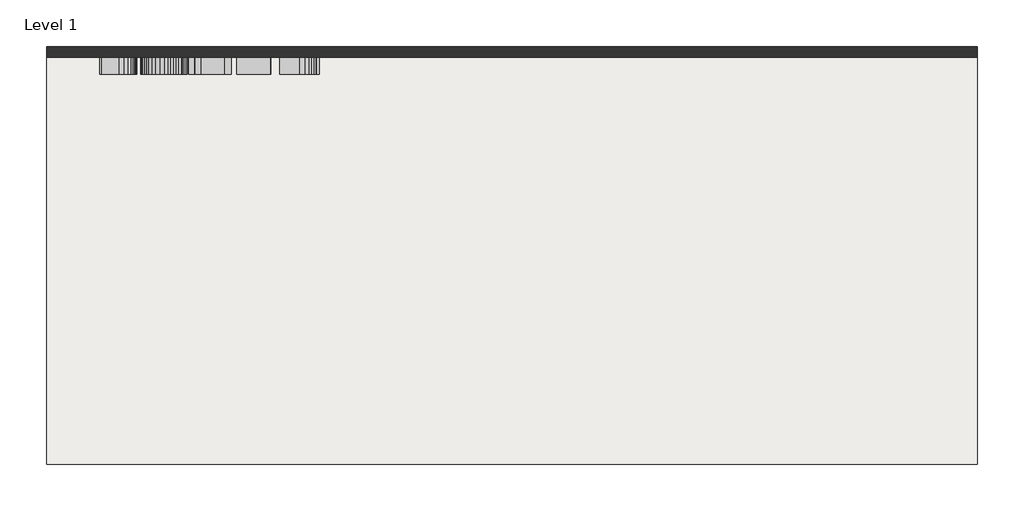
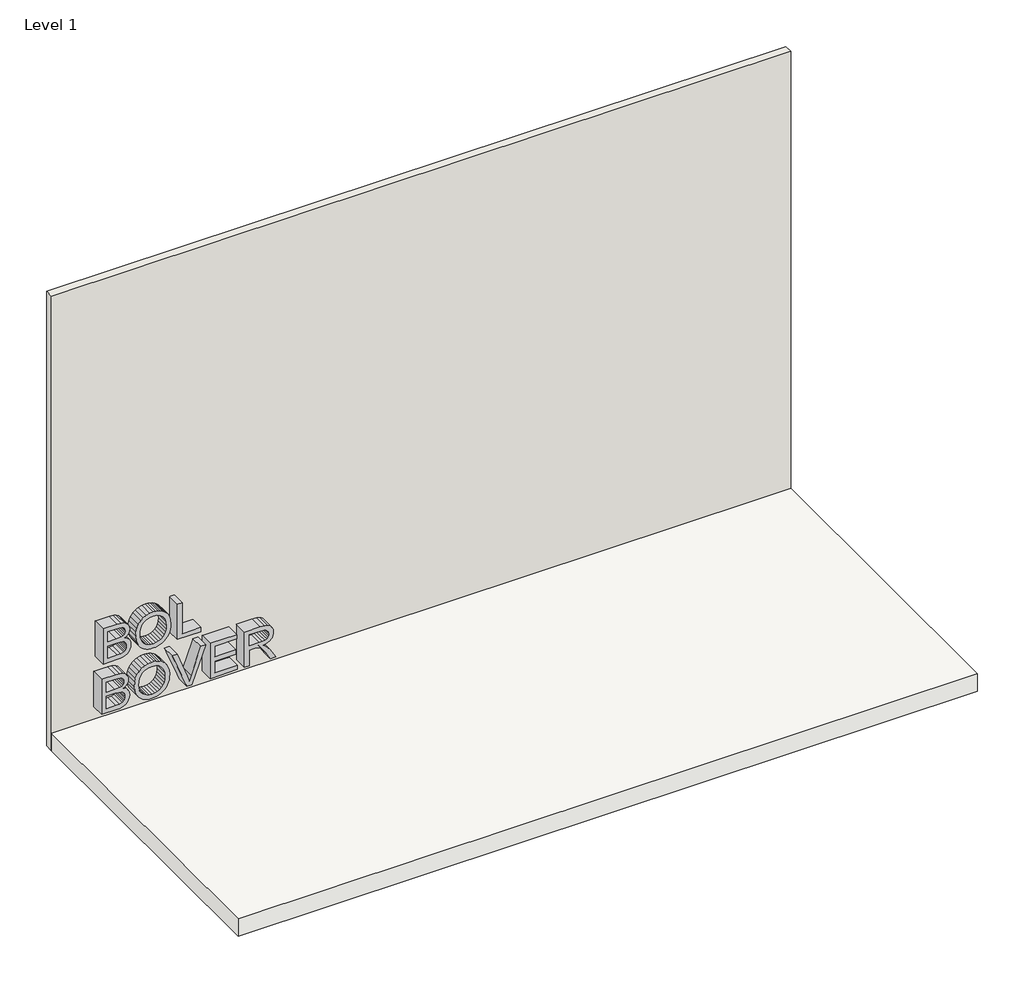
# One storey, incomplete: 2 proxies, 1 slab, 1 wall.
"""IFC4 building model written with IfcOpenShell, lengths in millimetres."""

from ifc_helpers import new_model, si_unit, frame, origin, place, context, project, spatial, polyline, outline, extrude, element, save

model = new_model("IFC4")

# Units and contexts
model_context = context("Model", 3, world=origin())
ifc_project = project(units=[si_unit("LENGTHUNIT", "METRE", prefix="MILLI")], contexts=[model_context])

# Site, building, storey
site = spatial("IfcSite", under=ifc_project)
building = spatial("IfcBuilding", under=site)
storey = spatial("IfcBuildingStorey", under=building, Name="Level 1", Elevation=0.0)

# Proxies
placement = place(None, origin())
element("IfcBuildingElementProxy", 1, Name="400mm Arial", ObjectType="400mm Arial", at=placement, inside=storey, context=model_context, shape_type="SweptSolid", body=[
    extrude(outline(polyline([(145.3499691, -8246.6925475), (145.3499691, -8094.5365543), (147.0790145, -8059.3547728), (152.2661506, -8030.1326797), (160.8255383, -8006.0854599), (172.6713386, -7986.4282986), (189.0298246, -7970.3763809), (211.1272698, -7957.1448918), (237.1120014, -7948.2789357), (265.1323467, -7945.323617), (298.7567611, -7949.6523619), (327.623235, -7962.6385963), (350.2357149, -7983.6691837), (365.0981475, -8012.1309874), (380.7576578, -7988.3044968), (400.6600737, -7971.3696623), (423.4074438, -7961.2529074), (447.6018163, -7957.8806558), (473.8931162, -7961.8905696), (499.0071938, -7973.9203108), (520.3566122, -7993.0256491), (535.3539349, -8018.262354), (544.219891, -8051.1877925), (547.1752097, -8093.3593319), (547.1752097, -8246.6925475), (145.3499691, -8246.6925475)]), holes=[polyline([(383.9337057, -8196.4643924), (496.9470546, -8196.4643924), (496.9470546, -8111.7043807), (495.6349422, -8072.7088892), (491.6986048, -8047.1533533), (484.2306003, -8030.5005617), (472.3234864, -8018.213303), (457.0686463, -8010.6349339), (439.5574634, -8008.1088109), (421.5189829, -8010.8188749), (406.8404913, -8018.949067), (395.6936668, -8032.4258108), (388.2501878, -8051.1755298), (383.9337057, -8104.7391483), (383.9337057, -8196.4643924)]), polyline([(195.5781242, -8196.4643924), (333.7055506, -8196.4643924), (333.7055506, -8098.362527), (332.0255562, -8062.5921344), (326.9855728, -8036.3130972), (317.8007857, -8017.7595819), (303.6863798, -8005.1657549), (285.6356366, -7997.9552678), (264.6418374, -7995.5517721), (246.5665687, -7997.5996486), (230.7966938, -8003.7432779), (217.9085613, -8013.0629551), (208.4785195, -8024.6389752), (197.5401615, -8056.1787249), (195.5781242, -8093.4574338), (195.5781242, -8196.4643924)])]), frame((0.0, 4375.2076786, 0.0), z_axis=(0.0, 1.0, 0.0), x_axis=(0.0, 0.0, 1.0)), (0.0, 0.0, 1.0), 150.0),
    extrude(outline(polyline([(340.9650886, -7895.095462), (289.5719739, -7889.3565028), (240.9502369, -7872.1396255), (218.5768802, -7859.3128066), (198.6928584, -7843.7881864), (181.2981714, -7825.5657649), (166.3928192, -7804.6455421), (154.43972, -7781.6283919), (145.9017921, -7757.1151883), (140.7790353, -7731.1059313), (139.0714497, -7703.6006208), (140.6165541, -7677.9500486), (145.2518672, -7653.1885247), (152.9773891, -7629.3160489), (163.7931198, -7606.3326212), (177.6132201, -7585.0751733), (194.3518508, -7566.3806366), (214.0090121, -7550.2490111), (236.5847039, -7536.6802968), (261.4228699, -7525.9289455), (287.867454, -7518.2494088), (315.9184561, -7513.6416869), (345.5758763, -7512.1057795), (402.5240092, -7517.9428405), (428.6068426, -7525.2391668), (453.0955208, -7535.4540235), (475.4811402, -7548.4525207), (495.2547974, -7564.0997682), (512.4164925, -7582.3957661), (526.9662254, -7603.3405143), (538.5545083, -7626.2902195), (546.8318531, -7650.601088), (551.7982601, -7676.2731199), (553.4537291, -7703.3063152), (549.9281933, -7743.6936269), (539.3515859, -7780.1936521), (521.723907, -7812.806391), (497.0451565, -7841.5318435), (466.1369375, -7864.9659266), (429.8208532, -7881.7045574), (388.0969036, -7891.7477358), (340.9650886, -7895.095462)]), holes=[polyline([(340.4745793, -7844.8673069), (381.1899191, -7842.2492134), (415.6328709, -7834.3949328), (443.8034347, -7821.3044651), (465.7016105, -7802.9778104), (482.1183445, -7781.0213866), (493.8445831, -7757.0416119), (500.8803263, -7731.0384862), (503.225574, -7703.0120096), (498.3572689, -7664.1268827), (483.7523537, -7629.2884577), (460.2937452, -7600.4097211), (428.86436, -7579.4036592), (390.4329543, -7566.6013657), (345.9682838, -7562.3339346), (310.5841672, -7564.8263351), (279.4797445, -7572.3035367), (252.6550157, -7584.7655393), (230.1099808, -7602.2123429), (212.2554413, -7623.5219075), (199.5021988, -7647.5721929), (191.8502533, -7674.3631992), (189.2996048, -7703.8949263), (191.8257278, -7732.9300128), (199.4040969, -7759.4083194), (212.0347121, -7783.3298462), (229.7175733, -7804.694593), (251.7966244, -7822.2701553), (277.6158091, -7834.8241284), (307.1751274, -7842.3565123), (340.4745793, -7844.8673069)])]), frame((0.0, 4375.2076786, 0.0), z_axis=(0.0, 1.0, 0.0), x_axis=(0.0, 0.0, 1.0)), (0.0, 0.0, 1.0), 150.0),
    extrude(outline(polyline([(145.3499691, -7324.3388092), (145.3499691, -7272.4429224), (547.1752097, -7119.3059105), (547.1752097, -7173.0657328), (257.6766049, -7280.3891735), (192.4388645, -7301.7753802), (257.6766049, -7323.4558924), (547.1752097, -7430.4850275), (547.1752097, -7484.2448498), (145.3499691, -7324.3388092)])), frame((0.0, 4375.2076786, 0.0), z_axis=(0.0, 1.0, 0.0), x_axis=(0.0, 0.0, 1.0)), (0.0, 0.0, 1.0), 150.0),
    extrude(outline(polyline([(145.3499691, -7072.6094226), (145.3499691, -6777.5190116), (195.5781242, -6777.5190116), (195.5781242, -7022.3812675), (327.4270312, -7022.3812675), (327.4270312, -6796.3545697), (377.6551863, -6796.3545697), (377.6551863, -7022.3812675), (496.9470546, -7022.3812675), (496.9470546, -6783.7975309), (547.1752097, -6783.7975309), (547.1752097, -7072.6094226), (145.3499691, -7072.6094226)])), frame((0.0, 4375.2076786, 0.0), z_axis=(0.0, 1.0, 0.0), x_axis=(0.0, 0.0, 1.0)), (0.0, 0.0, 1.0), 150.0),
    extrude(outline(polyline([(145.3499691, -6702.1767789), (145.3499691, -6651.9486239), (321.1485118, -6651.9486239), (321.1485118, -6591.3216711), (319.3826783, -6562.185417), (309.8177464, -6538.2976128), (299.8481443, -6525.8018877), (283.7717011, -6511.7610582), (228.6384528, -6473.9918401), (145.3499691, -6421.7035458), (145.3499691, -6363.3329359), (254.2430397, -6430.33651), (305.9427227, -6471.0487841), (327.4270312, -6499.5964269), (332.7429261, -6473.0016244), (340.7443595, -6450.1162986), (351.4313314, -6430.9404496), (364.8038419, -6415.4740774), (380.3652503, -6403.5638978), (397.6189159, -6395.0566266), (416.5648387, -6389.952264), (437.2030186, -6388.2508097), (469.0248112, -6392.3588253), (497.9771242, -6404.6828722), (521.3253682, -6423.8863123), (536.3349536, -6448.6325079), (544.4651456, -6482.4899142), (547.1752097, -6529.0269866), (547.1752097, -6702.1767789), (145.3499691, -6702.1767789)]), holes=[polyline([(371.3766669, -6651.9486239), (496.9470546, -6651.9486239), (496.9470546, -6526.8687455), (492.6060471, -6487.1252273), (487.1797876, -6471.8795843), (479.5830244, -6459.7180187), (459.840024, -6443.7887283), (435.3390831, -6438.4789648), (417.5949082, -6441.2626052), (401.2486849, -6449.6135265), (387.735153, -6463.3232622), (378.4890522, -6482.1833458), (373.1547632, -6507.2361097), (371.3766669, -6539.5238861), (371.3766669, -6651.9486239)])]), frame((0.0, 4375.2076786, 0.0), z_axis=(0.0, 1.0, 0.0), x_axis=(0.0, 0.0, 1.0)), (0.0, 0.0, 1.0), 150.0),
])
element("IfcBuildingElementProxy", 2, Name="400mm Arial", ObjectType="400mm Arial", at=placement, inside=storey, context=model_context, shape_type="SweptSolid", body=[
    extrude(outline(polyline([(716.706166, -8231.6588148), (716.706166, -8079.5028216), (718.4352113, -8044.3210401), (723.6223475, -8015.098947), (732.1817352, -7991.0517272), (744.0275355, -7971.3945659), (760.3860215, -7955.3426482), (782.4834667, -7942.1111591), (808.4681983, -7933.245203), (836.4885436, -7930.2898843), (870.112958, -7934.6186291), (898.9794318, -7947.6048636), (921.5919118, -7968.635451), (936.4543444, -7997.0972547), (952.1138547, -7973.2707641), (972.0162706, -7956.3359296), (994.7636406, -7946.2191747), (1018.9580132, -7942.8469231), (1045.2493131, -7946.8568368), (1070.3633907, -7958.8865781), (1091.7128091, -7977.9919164), (1106.7101318, -8003.2286212), (1115.5760879, -8036.1540598), (1118.5314066, -8078.3255992), (1118.5314066, -8231.6588148), (716.706166, -8231.6588148)]), holes=[polyline([(955.2899026, -8181.4306597), (1068.3032515, -8181.4306597), (1068.3032515, -8096.670648), (1066.991139, -8057.6751565), (1063.0548017, -8032.1196206), (1055.5867972, -8015.4668289), (1043.6796833, -8003.1795703), (1028.4248432, -7995.6012012), (1010.9136602, -7993.0750782), (992.8751797, -7995.7851422), (978.1966881, -8003.9153343), (967.0498637, -8017.3920781), (959.6063846, -8036.1417971), (955.2899026, -8089.7054156), (955.2899026, -8181.4306597)]), polyline([(766.934321, -8181.4306597), (905.0617475, -8181.4306597), (905.0617475, -8083.3287943), (903.381753, -8047.5584017), (898.3417697, -8021.2793645), (889.1569826, -8002.7258492), (875.0425767, -7990.1320222), (856.9918335, -7982.9215351), (835.9980343, -7980.5180394), (817.9227656, -7982.5659158), (802.1528907, -7988.7095452), (789.2647581, -7998.0292224), (779.8347163, -8009.6052425), (768.8963583, -8041.1449922), (766.934321, -8078.4237011), (766.934321, -8181.4306597)])]), frame((0.0, 4375.2076786, 0.0), z_axis=(0.0, 1.0, 0.0), x_axis=(0.0, 0.0, 1.0)), (0.0, 0.0, 1.0), 150.0),
    extrude(outline(polyline([(912.3212855, -7880.0617293), (860.9281708, -7874.3227701), (812.3064338, -7857.1058928), (789.9330771, -7844.2790739), (770.0490553, -7828.7544537), (752.6543683, -7810.5320322), (737.7490161, -7789.6118094), (725.7959169, -7766.5946592), (717.257989, -7742.0814556), (712.1352322, -7716.0721985), (710.4276466, -7688.566888), (711.972751, -7662.9163159), (716.6080641, -7638.154792), (724.333586, -7614.2823162), (735.1493167, -7591.2988885), (748.9694169, -7570.0414406), (765.7080477, -7551.3469038), (785.365209, -7535.2152783), (807.9409008, -7521.6465641), (832.7790668, -7510.8952128), (859.2236509, -7503.2156761), (887.274653, -7498.6079541), (916.9320732, -7497.0720468), (973.8802061, -7502.9091078), (999.9630395, -7510.205434), (1024.4517177, -7520.4202908), (1046.8373371, -7533.4187879), (1066.6109943, -7549.0660355), (1083.7726894, -7567.3620334), (1098.3224223, -7588.3067816), (1109.9107051, -7611.2564867), (1118.18805, -7635.5673553), (1123.154457, -7661.2393872), (1124.8099259, -7688.2725824), (1121.2843902, -7728.6598941), (1110.7077828, -7765.1599194), (1093.0801039, -7797.7726583), (1068.4013534, -7826.4981108), (1037.4931344, -7849.9321939), (1001.1770501, -7866.6708246), (959.4531005, -7876.7140031), (912.3212855, -7880.0617293)]), holes=[polyline([(911.8307762, -7829.8335742), (952.546116, -7827.2154807), (986.9890678, -7819.3612001), (1015.1596316, -7806.2707324), (1037.0578074, -7787.9440777), (1053.4745414, -7765.9876539), (1065.20078, -7742.0078792), (1072.2365232, -7716.0047535), (1074.5817709, -7687.9782768), (1069.7134658, -7649.09315), (1055.1085506, -7614.254725), (1031.649942, -7585.3759884), (1000.2205569, -7564.3699265), (961.7891511, -7551.567633), (917.3244807, -7547.3002019), (881.9403641, -7549.7926024), (850.8359414, -7557.269804), (824.0112126, -7569.7318065), (801.4661777, -7587.1786102), (783.6116382, -7608.4881747), (770.8583957, -7632.5384602), (763.2064502, -7659.3294665), (760.6558017, -7688.8611936), (763.1819247, -7717.8962801), (770.7602938, -7744.3745867), (783.390909, -7768.2961134), (801.0737702, -7789.6608603), (823.1528213, -7807.2364226), (848.972006, -7819.7903957), (878.5313243, -7827.3227796), (911.8307762, -7829.8335742)])]), frame((0.0, 4375.2076786, 0.0), z_axis=(0.0, 1.0, 0.0), x_axis=(0.0, 0.0, 1.0)), (0.0, 0.0, 1.0), 150.0),
    extrude(outline(polyline([(716.706166, -7428.0083336), (716.706166, -7176.8675582), (766.934321, -7176.8675582), (766.934321, -7377.7801785), (1118.5314066, -7377.7801785), (1118.5314066, -7428.0083336), (716.706166, -7428.0083336)])), frame((0.0, 4375.2076786, 0.0), z_axis=(0.0, 1.0, 0.0), x_axis=(0.0, 0.0, 1.0)), (0.0, 0.0, 1.0), 150.0),
])

# Slab
element("IfcSlab", 3, ObjectType="Generic Floor - 200 mm", at=placement, inside=storey, context=model_context, shape_type="SweptSolid", body=[
    extrude(outline(polyline([(-705.090184, 4525.2076786), (-705.090184, 1025.2076786), (-8705.090184, 1025.2076786), (-8705.090184, 4525.2076786), (-705.090184, 4525.2076786)])), frame((0.0, 0.0, -200.0), z_axis=(0.0, 0.0, 1.0), x_axis=(1.0, 0.0, 0.0)), (0.0, 0.0, 1.0), 200.0),
])

# Wall
element("IfcWall", 4, ObjectType="Generic - 90mm Brick", at=placement, inside=storey, context=model_context, shape_type="SweptSolid", body=[
    extrude(outline(polyline([(-705.090184, 4525.2076786), (-8705.090184, 4525.2076786), (-8705.090184, 4615.2076786), (-705.090184, 4615.2076786), (-705.090184, 4525.2076786)])), frame((0.0, 0.0, -200.0), z_axis=(0.0, 0.0, 1.0), x_axis=(1.0, 0.0, 0.0)), (0.0, 0.0, 1.0), 5200.0),
])

save(model, "model.ifc")
